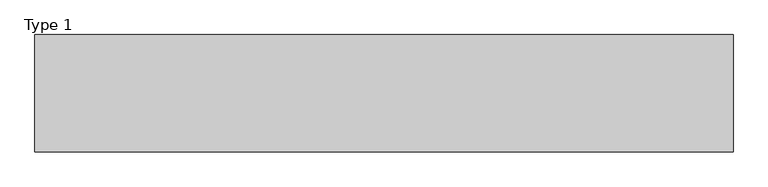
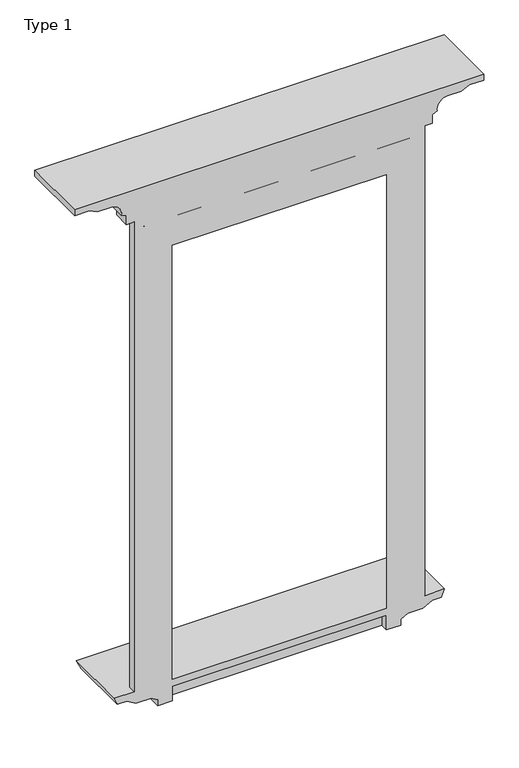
"""IFC4 building model written with IfcOpenShell, lengths in millimetres: proxy geometry, Family1.rfa122231 : Type 1."""

from ifc_helpers import new_model, si_unit, frame, origin, place, context, project, spatial, polyline, circle_curve, ellipse_curve, source, transform, mapped, element, save
from ifc_brep_helpers import plane_surface, revolved_surface, advanced_brep


def type_1_216547c5(model_context):
    return source(origin(), model_context, "Body", "AdvancedBrep", [
        advanced_brep(
        [(-1215.0, 200.0, 4370.0), (-1215.0, 200.0, 4330.0), (-1120.0, 200.0, 4330.0), (-1065.6215328, 200.0, 4304.6429043), (-975.6215328, 200.0, 4304.6429043), (-908.1288338, 200.0, 4224.2082378), (-876.4080612, 200.0, 4209.4165986), (-876.4080612, 200.0, 4150.0), (-825.0, 200.0, 4150.0), (-825.0, 200.0, 900.0), (-955.0, 200.0, 900.0), (-935.3873986, 200.0, 850.0), (-875.0, 200.0, 850.0), (-814.3782217, 200.0, 815.0), (-714.3782217, 200.0, 815.0), (-671.0769515, 200.0, 790.0), (-671.0769515, 200.0, 750.0), (-575.0, 200.0, 750.0), (-575.0, 200.0, 850.0), (825.0, 200.0, 850.0), (825.0, 200.0, 750.0), (921.0769515, 200.0, 750.0), (921.0769515, 200.0, 790.0), (964.3782217, 200.0, 815.0), (1064.3782217, 200.0, 815.0), (1125.0, 200.0, 850.0), (1185.3873986, 200.0, 850.0), (1205.0, 200.0, 900.0), (1075.0, 200.0, 900.0), (1075.0, 200.0, 4150.0), (1125.7862829, 200.0, 4150.0), (1125.7862829, 200.0, 4209.4165986), (1157.5070555, 200.0, 4224.2082378), (1224.9997545, 200.0, 4304.6429043), (1314.9997545, 200.0, 4304.6429043), (1369.3782217, 200.0, 4330.0), (1464.3782217, 200.0, 4330.0), (1464.3782217, 200.0, 4370.0), (825.0, 200.0, 3900.0), (825.0, 200.0, 900.0), (-575.0, 200.0, 900.0), (-575.0, 200.0, 3900.0), (1464.3782217, 650.0, 4370.0), (-1215.0, 650.0, 4370.0), (-1215.0, 650.0, 4330.0), (1464.3782217, 650.0, 4330.0), (1369.3782217, 555.0, 4330.0), (-1120.0, 555.0, 4330.0), (-1065.6215328, 500.6215328, 4304.6429043), (1314.9997545, 500.6215328, 4304.6429043), (1224.9997545, 410.6215328, 4304.6429043), (-975.6215328, 410.6215328, 4304.6429043), (-908.1288338, 343.1288338, 4224.2082378), (-876.4080612, 311.4080612, 4209.4165986), (-876.4080612, 311.4080612, 4150.0), (1125.7862829, 311.4080612, 4150.0), (1075.0, 250.7652476, 4150.0), (-825.0, 250.7652476, 4150.0), (1157.5070555, 343.1288338, 4224.2082378), (1125.7862829, 311.4080612, 4209.4165986), (-800.2409318, 250.0, 4118.6790562), (1050.2409318, 250.0, 4118.6790562), (1043.6790562, 231.9713952, 4118.6790562), (-793.6790562, 231.9713952, 4118.6790562), (-800.2409318, 250.0, 4125.2409318), (1050.2409318, 250.0, 4125.2409318), (847.4975663, 226.8115555, 3922.4975663), (847.4975663, 226.8115555, 900.0), (-597.4975663, 226.8115555, 3922.4975663), (-597.4975663, 226.8115555, 900.0), (-637.4975663, 226.8115555, 900.0), (-637.4975663, 226.8115555, 3962.4975663), (887.4975663, 226.8115555, 3962.4975663), (887.4975663, 226.8115555, 900.0), (915.7237184, 228.4289525, 3990.7237184), (915.7237184, 228.4289525, 900.0), (-665.7237184, 228.4289525, 3990.7237184), (-665.7237184, 228.4289525, 900.0), (-695.7237184, 228.4289525, 900.0), (-695.7237184, 228.4289525, 4020.7237184), (945.7237184, 228.4289525, 4020.7237184), (945.7237184, 228.4289525, 900.0), (976.2275363, 250.0, 4051.2275363), (976.2275363, 250.0, 900.0), (-726.2275363, 250.0, 4051.2275363), (-726.2275363, 250.0, 900.0), (-752.6137347, 250.0, 900.0), (-752.6137347, 250.0, 4077.6137347), (1002.6137347, 250.0, 4077.6137347), (1002.6137347, 250.0, 900.0), (1003.6790562, 231.9713952, 4078.6790562), (1003.6790562, 231.9713952, 900.0), (-753.6790562, 231.9713952, 4078.6790562), (-753.6790562, 231.9713952, 900.0), (-793.6790562, 231.9713952, 900.0), (1043.6790562, 231.9713952, 900.0), (1050.5194591, 250.7652476, 4125.5194591), (1050.5194591, 250.7652476, 900.0), (-800.5194591, 250.7652476, 4125.5194591), (-800.5194591, 250.7652476, 900.0), (-825.0, 250.7652476, 900.0), (1075.0, 250.7652476, 900.0), (-955.0, 630.0, 900.0), (-935.3873986, 610.3873986, 850.0), (1185.3873986, 610.3873986, 850.0), (1125.0, 550.0, 850.0), (-875.0, 550.0, 850.0), (-814.3782217, 489.3782217, 815.0), (1064.3782217, 489.3782217, 815.0), (964.3782217, 389.3782217, 815.0), (-714.3782217, 389.3782217, 815.0), (-671.0769515, 346.0769515, 790.0), (-671.0769515, 346.0769515, 750.0), (921.0769515, 346.0769515, 750.0), (825.0, 250.0, 750.0), (-575.0, 250.0, 750.0), (-575.0, 250.0, 850.0), (1205.0, 630.0, 900.0), (921.0769515, 346.0769515, 790.0), (825.0, 250.0, 850.0)],
        [
            (0, 1),
            (1, 2),
            (2, 3),
            (3, 4),
            (4, 5, circle_curve(frame((-975.6215328, 200.0, 4236.1090216), z_axis=(0.0, 1.0, 0.0), x_axis=(-1.0, 0.0, 0.0)), 68.5338827)),
            (5, 6),
            (6, 7),
            (7, 8),
            (8, 9),
            (9, 10),
            (10, 11),
            (11, 12),
            (12, 13),
            (13, 14),
            (14, 15),
            (15, 16),
            (16, 17),
            (17, 18),
            (18, 19),
            (19, 20),
            (20, 21),
            (21, 22),
            (22, 23),
            (23, 24),
            (24, 25),
            (25, 26),
            (26, 27),
            (27, 28),
            (28, 29),
            (29, 30),
            (30, 31),
            (31, 32),
            (32, 33, circle_curve(frame((1224.9997545, 200.0, 4236.1090216), z_axis=(0.0, 1.0, 0.0), x_axis=(1.0, 0.0, 0.0)), 68.5338827)),
            (33, 34),
            (34, 35),
            (35, 36),
            (36, 37),
            (37, 0),
            (38, 39),
            (39, 40),
            (40, 41),
            (41, 38),
            (37, 42),
            (42, 43),
            (43, 0),
            (43, 44),
            (44, 1),
            (44, 45),
            (45, 36),
            (35, 46),
            (46, 47),
            (47, 2),
            (47, 48),
            (48, 3),
            (48, 49),
            (49, 34),
            (33, 50),
            (50, 51),
            (51, 4),
            (51, 52, ellipse_curve(frame((-975.6215328, 410.6215328, 4236.1090216), z_axis=(0.7071067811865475, 0.7071067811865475, 0.0), x_axis=(-0.7071067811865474, 0.7071067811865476, 0.0)), 96.9215464, 68.5338827)),
            (52, 5),
            (52, 53),
            (53, 6),
            (53, 54),
            (54, 7),
            (54, 55),
            (55, 30),
            (29, 56),
            (56, 57),
            (57, 8),
            (42, 45),
            (46, 49),
            (50, 58, ellipse_curve(frame((1224.9997545, 410.6215328, 4236.1090216), z_axis=(0.7071067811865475, -0.7071067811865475, 0.0), x_axis=(0.7071067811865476, 0.7071067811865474, 0.0)), 96.9215464, 68.5338827)),
            (58, 52),
            (58, 59),
            (59, 53),
            (59, 55),
            (32, 58),
            (31, 59),
            (60, 61),
            (61, 62),
            (62, 63),
            (63, 60),
            (60, 64),
            (64, 65),
            (65, 61),
            (38, 66),
            (66, 67),
            (67, 39),
            (66, 68),
            (68, 69),
            (69, 70),
            (70, 71),
            (71, 72),
            (72, 73),
            (73, 67),
            (72, 74, ellipse_curve(frame((901.2586589, 233.7629252, 3976.2586589), z_axis=(-0.7071067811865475, 0.0, 0.7071067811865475), x_axis=(0.7071067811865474, 0.0, 0.7071067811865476)), 21.8031745, 15.4171726)),
            (74, 75),
            (75, 73, circle_curve(frame((901.2586589, 233.7629252, 900.0), z_axis=(0.0, 0.0, -1.0), x_axis=(1.0, 0.0, 0.0)), 15.4171726)),
            (74, 76),
            (76, 77),
            (77, 78),
            (78, 79),
            (79, 80),
            (80, 81),
            (81, 75),
            (80, 82),
            (82, 83),
            (83, 81),
            (82, 84),
            (84, 85),
            (85, 86),
            (86, 87),
            (87, 88),
            (88, 89),
            (89, 83),
            (88, 90, ellipse_curve(frame((1003.6104256, 241.0131174, 4078.6104256), z_axis=(-0.7071067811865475, 0.0, 0.7071067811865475), x_axis=(0.7071067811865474, 0.0, 0.7071067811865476)), 12.7872946, 9.0419827)),
            (90, 91),
            (91, 89, circle_curve(frame((1003.6104256, 241.0131174, 900.0), z_axis=(0.0, 0.0, -1.0), x_axis=(1.0, 0.0, 0.0)), 9.0419827)),
            (90, 92),
            (92, 93),
            (93, 94),
            (94, 63),
            (62, 95),
            (95, 91),
            (65, 96),
            (96, 97),
            (97, 95),
            (96, 98),
            (98, 99),
            (99, 100),
            (100, 57),
            (56, 101),
            (101, 97),
            (28, 101),
            (41, 68),
            (71, 76, ellipse_curve(frame((-651.2586589, 233.7629252, 3976.2586589), z_axis=(-0.7071067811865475, 0.0, -0.7071067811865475), x_axis=(-0.7071067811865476, 0.0, 0.7071067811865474)), 21.8031745, 15.4171726)),
            (79, 84),
            (87, 92, ellipse_curve(frame((-753.6104256, 241.0131174, 4078.6104256), z_axis=(-0.7071067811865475, 0.0, -0.7071067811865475), x_axis=(-0.7071067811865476, 0.0, 0.7071067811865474)), 12.7872946, 9.0419827)),
            (64, 98),
            (40, 69),
            (70, 77, circle_curve(frame((-651.2586589, 233.7629252, 900.0), z_axis=(0.0, 0.0, -1.0), x_axis=(-1.0, 0.0, 0.0)), 15.4171726)),
            (78, 85),
            (86, 93, circle_curve(frame((-753.6104256, 241.0131174, 900.0), z_axis=(0.0, 0.0, -1.0), x_axis=(-1.0, 0.0, 0.0)), 9.0419827)),
            (94, 99),
            (100, 9),
            (10, 102),
            (102, 103),
            (103, 11),
            (103, 104),
            (104, 26),
            (25, 105),
            (105, 106),
            (106, 12),
            (106, 107),
            (107, 13),
            (107, 108),
            (108, 24),
            (23, 109),
            (109, 110),
            (110, 14),
            (110, 111),
            (111, 15),
            (111, 112),
            (112, 16),
            (112, 113),
            (113, 21),
            (20, 114),
            (114, 115),
            (115, 17),
            (115, 116),
            (116, 18),
            (27, 117),
            (117, 102),
            (117, 104),
            (105, 108),
            (109, 118),
            (118, 111),
            (118, 113),
            (114, 119),
            (119, 116),
            (22, 118),
            (19, 119),
        ],
        [
            plane_surface(frame((-815.0, 200.0, 4150.0), z_axis=(0.0, -1.0, 0.0), x_axis=(0.0, 0.0, 1.0))),
            plane_surface(frame((-815.0, 200.0, 4370.0), z_axis=(0.0, 0.0, 1.0), x_axis=(0.0, 1.0, 0.0))),
            plane_surface(frame((-1215.0, 200.0, 4370.0), z_axis=(-1.0, 0.0, 0.0), x_axis=(0.0, 1.0, 0.0))),
            plane_surface(frame((-1215.0, 200.0, 4330.0), z_axis=(0.0, 0.0, -1.0), x_axis=(0.0, 1.0, 0.0))),
            plane_surface(frame((-1120.0, 200.0, 4330.0), z_axis=(-0.42261826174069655, 0.0, -0.9063077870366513), x_axis=(0.0, 1.0, 0.0))),
            plane_surface(frame((-1065.6215328, 200.0, 4304.6429043), z_axis=(0.0, 0.0, -1.0), x_axis=(0.0, 1.0, 0.0))),
            revolved_surface(polyline([(-1044.1554155, 479.15541550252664, 4236.1090216), (-1044.1554155, 200.0, 4236.1090216)]), (-975.6215328, 200.0, 4236.1090216), (0.0, 1.0, 0.0)),
            plane_surface(frame((-908.1288338, 200.0, 4224.2082378), z_axis=(-0.4226182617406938, 0.0, -0.9063077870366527), x_axis=(0.0, 1.0, 0.0))),
            plane_surface(frame((-876.4080612, 200.0, 4209.4165986), z_axis=(-1.0, 0.0, 0.0), x_axis=(0.0, 1.0, 0.0))),
            plane_surface(frame((-876.4080612, 200.0, 4150.0), z_axis=(0.0, 0.0, -1.0), x_axis=(0.0, 1.0, 0.0))),
            plane_surface(frame((-1215.0, 650.0, 4370.0), z_axis=(0.0, 1.0, 0.0), x_axis=(1.0, 0.0, 0.0))),
            plane_surface(frame((-1120.0, 555.0, 4330.0), z_axis=(0.0, 0.42261826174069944, -0.9063077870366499), x_axis=(1.0, 0.0, 0.0))),
            revolved_surface(polyline([(1293.5336372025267, 479.1554155, 4236.1090216), (-1044.1554155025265, 479.1554155, 4236.1090216)]), (-815.0, 410.6215328, 4236.1090216), (1.0, 0.0, 0.0)),
            plane_surface(frame((-908.1288338, 343.1288338, 4224.2082378), z_axis=(0.0, 0.42261826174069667, -0.9063077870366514), x_axis=(1.0, 0.0, 0.0))),
            plane_surface(frame((-876.4080612, 311.4080612, 4209.4165986), z_axis=(0.0, 1.0, 0.0), x_axis=(1.0, 0.0, 0.0))),
            plane_surface(frame((1464.3782217, 650.0, 4370.0), z_axis=(1.0, 0.0, 0.0), x_axis=(0.0, -1.0, 0.0))),
            plane_surface(frame((1369.3782217, 555.0, 4330.0), z_axis=(0.42261826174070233, 0.0, -0.9063077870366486), x_axis=(0.0, -1.0, 0.0))),
            revolved_surface(polyline([(1293.5336372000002, 200.0, 4236.1090216), (1293.5336372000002, 479.1554155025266, 4236.1090216)]), (1224.9997545, 250.0, 4236.1090216), (0.0, -1.0, 0.0)),
            plane_surface(frame((1157.5070555, 343.1288338, 4224.2082378), z_axis=(0.42261826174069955, 0.0, -0.90630778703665), x_axis=(0.0, -1.0, 0.0))),
            plane_surface(frame((1125.7862829, 311.4080612, 4209.4165986), z_axis=(1.0, 0.0, 0.0), x_axis=(0.0, -1.0, 0.0))),
            plane_surface(frame((1064.3782217, 250.0, 4118.6790562), z_axis=(0.0, 0.0, -1.0), x_axis=(1.0, 0.0, 0.0))),
            plane_surface(frame((1064.3782217, 250.0, 4370.0), z_axis=(0.0, 1.0, 0.0), x_axis=(0.0, 0.0, -1.0))),
            plane_surface(frame((825.0, 200.0, 900.0), z_axis=(-0.7660444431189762, 0.6427876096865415, 0.0), x_axis=(0.0, 0.0, 1.0))),
            plane_surface(frame((847.4975663, 226.8115555, 900.0), z_axis=(0.0, 1.0, 0.0), x_axis=(0.0, 0.0, 1.0))),
            revolved_surface(polyline([(916.6758315, 233.7629252, 3991.6758314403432), (916.6758315, 233.7629252, 900.0)]), (901.2586589, 233.7629252, 900.0), (0.0, 0.0, 1.0)),
            plane_surface(frame((915.7237184, 228.4289525, 900.0), z_axis=(0.0, 1.0, 0.0), x_axis=(0.0, 0.0, 1.0))),
            plane_surface(frame((945.7237184, 228.4289525, 900.0), z_axis=(-0.5773786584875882, 0.8164765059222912, 0.0), x_axis=(0.0, 0.0, 1.0))),
            plane_surface(frame((976.2275363, 250.0, 900.0), z_axis=(0.0, 1.0, 0.0), x_axis=(0.0, 0.0, 1.0))),
            revolved_surface(polyline([(1012.6524082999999, 241.0131174, 4087.65240832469), (1012.6524082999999, 241.0131174, 900.0)]), (1003.6104256, 241.0131174, 900.0), (0.0, 0.0, 1.0)),
            plane_surface(frame((1003.6790562, 231.9713952, 900.0), z_axis=(0.0, 1.0, 0.0), x_axis=(0.0, 0.0, 1.0))),
            plane_surface(frame((1043.6790562, 231.9713952, 900.0), z_axis=(-0.9396926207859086, 0.34202014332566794, 0.0), x_axis=(0.0, 0.0, 1.0))),
            plane_surface(frame((1050.5194591, 250.7652476, 900.0), z_axis=(0.0, 1.0, 0.0), x_axis=(0.0, 0.0, 1.0))),
            plane_surface(frame((1075.0, 250.7652476, 900.0), z_axis=(1.0, 0.0, 0.0), x_axis=(0.0, 0.0, 1.0))),
            plane_surface(frame((825.0, 200.0, 3900.0), z_axis=(0.0, 0.6427876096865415, -0.7660444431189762), x_axis=(-1.0, 0.0, 0.0))),
            revolved_surface(polyline([(-666.6758314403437, 233.7629252, 3991.6758314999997), (916.6758314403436, 233.7629252, 3991.6758314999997)]), (825.0, 233.7629252, 3976.2586589), (-1.0, 0.0, 0.0)),
            plane_surface(frame((945.7237184, 228.4289525, 4020.7237184), z_axis=(0.0, 0.8164765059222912, -0.5773786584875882), x_axis=(-1.0, 0.0, 0.0))),
            revolved_surface(polyline([(-762.65240832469, 241.0131174, 4087.6524083), (1012.6524083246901, 241.0131174, 4087.6524083)]), (825.0, 241.0131174, 4078.6104256), (-1.0, 0.0, 0.0)),
            plane_surface(frame((1043.6790562, 231.9713952, 4118.6790562), z_axis=(0.0, 0.34202014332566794, -0.9396926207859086), x_axis=(-1.0, 0.0, 0.0))),
            plane_surface(frame((-575.0, 200.0, 3900.0), z_axis=(0.7660444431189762, 0.6427876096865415, 0.0), x_axis=(0.0, 0.0, -1.0))),
            revolved_surface(polyline([(-666.6758315, 233.7629252, 900.0), (-666.6758315, 233.7629252, 3991.6758314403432)]), (-651.2586589, 233.7629252, 3900.0), (0.0, 0.0, -1.0)),
            plane_surface(frame((-695.7237184, 228.4289525, 4020.7237184), z_axis=(0.5773786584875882, 0.8164765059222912, 0.0), x_axis=(0.0, 0.0, -1.0))),
            revolved_surface(polyline([(-762.6524082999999, 241.0131174, 900.0), (-762.6524082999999, 241.0131174, 4087.65240832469)]), (-753.6104256, 241.0131174, 3900.0), (0.0, 0.0, -1.0)),
            plane_surface(frame((-793.6790562, 231.9713952, 4118.6790562), z_axis=(0.9396926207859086, 0.34202014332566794, 0.0), x_axis=(0.0, 0.0, -1.0))),
            plane_surface(frame((-825.0, 250.7652476, 4150.0), z_axis=(-1.0, 0.0, 0.0), x_axis=(0.0, 0.0, -1.0))),
            plane_surface(frame((-955.0, 200.0, 900.0), z_axis=(-0.9309430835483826, 0.0, -0.36516431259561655), x_axis=(0.0, 1.0, 0.0))),
            plane_surface(frame((-935.3873986, 200.0, 850.0), z_axis=(0.0, 0.0, -1.0), x_axis=(0.0, 1.0, 0.0))),
            plane_surface(frame((-875.0, 200.0, 850.0), z_axis=(-0.5000000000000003, 0.0, -0.8660254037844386), x_axis=(0.0, 1.0, 0.0))),
            plane_surface(frame((-814.3782217, 200.0, 815.0), z_axis=(0.0, 0.0, -1.0), x_axis=(0.0, 1.0, 0.0))),
            plane_surface(frame((-714.3782217, 200.0, 815.0), z_axis=(-0.49999999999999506, 0.0, -0.8660254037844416), x_axis=(0.0, 1.0, 0.0))),
            plane_surface(frame((-671.0769515, 200.0, 790.0), z_axis=(-1.0, 0.0, 0.0), x_axis=(0.0, 1.0, 0.0))),
            plane_surface(frame((-671.0769515, 200.0, 750.0), z_axis=(0.0, 0.0, -1.0), x_axis=(0.0, 1.0, 0.0))),
            plane_surface(frame((-575.0, 200.0, 750.0), z_axis=(1.0, 0.0, 0.0), x_axis=(0.0, 1.0, 0.0))),
            plane_surface(frame((-575.0, 200.0, 900.0), z_axis=(0.0, 0.0, 1.0), x_axis=(0.0, 1.0, 0.0))),
            plane_surface(frame((-955.0, 630.0, 900.0), z_axis=(0.0, 0.9309430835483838, -0.3651643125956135), x_axis=(1.0, 0.0, 0.0))),
            plane_surface(frame((-875.0, 550.0, 850.0), z_axis=(0.0, 0.5000000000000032, -0.8660254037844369), x_axis=(1.0, 0.0, 0.0))),
            plane_surface(frame((-714.3782217, 389.3782217, 815.0), z_axis=(0.0, 0.4999999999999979, -0.8660254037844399), x_axis=(1.0, 0.0, 0.0))),
            plane_surface(frame((-671.0769515, 346.0769515, 790.0), z_axis=(0.0, 1.0, 0.0), x_axis=(1.0, 0.0, 0.0))),
            plane_surface(frame((-575.0, 250.0, 750.0), z_axis=(0.0, -1.0, 0.0), x_axis=(1.0, 0.0, 0.0))),
            plane_surface(frame((1205.0, 630.0, 900.0), z_axis=(0.9309430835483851, 0.0, -0.36516431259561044), x_axis=(0.0, -1.0, 0.0))),
            plane_surface(frame((1125.0, 550.0, 850.0), z_axis=(0.5000000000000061, 0.0, -0.8660254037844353), x_axis=(0.0, -1.0, 0.0))),
            plane_surface(frame((964.3782217, 389.3782217, 815.0), z_axis=(0.5000000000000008, 0.0, -0.8660254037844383), x_axis=(0.0, -1.0, 0.0))),
            plane_surface(frame((921.0769515, 346.0769515, 790.0), z_axis=(1.0, 0.0, 0.0), x_axis=(0.0, -1.0, 0.0))),
            plane_surface(frame((825.0, 250.0, 750.0), z_axis=(-1.0, 0.0, 0.0), x_axis=(0.0, -1.0, 0.0))),
            plane_surface(frame((825.0, 250.0, 850.0), z_axis=(0.0, 0.0, -1.0), x_axis=(0.0, -1.0, 0.0))),
        ],
        [
            (0, [[1, 2, 3, 4, 5, 6, 7, 8, 9, 10, 11, 12, 13, 14, 15, 16, 17, 18, 19, 20, 21, 22, 23, 24, 25, 26, 27, 28, 29, 30, 31, 32, 33, 34, 35, 36, 37, 38], [39, 40, 41, 42]]),
            (1, [[43, 44, 45, -38]]),
            (2, [[-1, -45, 46, 47]]),
            (3, [[-2, -47, 48, 49, -36, 50, 51, 52]]),
            (4, [[-3, -52, 53, 54]]),
            (5, [[-4, -54, 55, 56, -34, 57, 58, 59]]),
            (6, [[-5, -59, 60, 61]]),
            (7, [[-6, -61, 62, 63]]),
            (8, [[-7, -63, 64, 65]]),
            (9, [[-65, 66, 67, -30, 68, 69, 70, -8]]),
            (10, [[-44, 71, -48, -46]]),
            (11, [[-51, 72, -55, -53]]),
            (12, [[-58, 73, 74, -60]]),
            (13, [[-62, -74, 75, 76]]),
            (14, [[-64, -76, 77, -66]]),
            (15, [[-43, -37, -49, -71]]),
            (16, [[-50, -35, -56, -72]]),
            (17, [[-57, -33, 78, -73]]),
            (18, [[-75, -78, -32, 79]]),
            (19, [[-67, -77, -79, -31]]),
            (20, [[80, 81, 82, 83]]),
            (21, [[-80, 84, 85, 86]]),
            (22, [[-39, 87, 88, 89]]),
            (23, [[-88, 90, 91, 92, 93, 94, 95, 96]]),
            (24, [[-95, 97, 98, 99]]),
            (25, [[-98, 100, 101, 102, 103, 104, 105, 106]]),
            (26, [[-105, 107, 108, 109]]),
            (27, [[-108, 110, 111, 112, 113, 114, 115, 116]]),
            (28, [[-115, 117, 118, 119]]),
            (29, [[-118, 120, 121, 122, 123, -82, 124, 125]]),
            (30, [[-124, -81, -86, 126, 127, 128]]),
            (31, [[-127, 129, 130, 131, 132, -69, 133, 134]]),
            (32, [[-29, 135, -133, -68]]),
            (33, [[-42, 136, -90, -87]]),
            (34, [[-94, 137, -100, -97]]),
            (35, [[-104, 138, -110, -107]]),
            (36, [[-114, 139, -120, -117]]),
            (37, [[-129, -126, -85, 140]]),
            (38, [[-41, 141, -91, -136]]),
            (39, [[-93, 142, -101, -137]]),
            (40, [[-103, 143, -111, -138]]),
            (41, [[-113, 144, -121, -139]]),
            (42, [[-123, 145, -130, -140, -84, -83]]),
            (43, [[-9, -70, -132, 146]]),
            (44, [[-11, 147, 148, 149]]),
            (45, [[-12, -149, 150, 151, -26, 152, 153, 154]]),
            (46, [[-13, -154, 155, 156]]),
            (47, [[-14, -156, 157, 158, -24, 159, 160, 161]]),
            (48, [[-15, -161, 162, 163]]),
            (49, [[-16, -163, 164, 165]]),
            (50, [[-17, -165, 166, 167, -21, 168, 169, 170]]),
            (51, [[-170, 171, 172, -18]]),
            (52, [[-147, -10, -146, -131, -145, -122, -144, -112, -143, -102, -142, -92, -141, -40, -89, -96, -99, -106, -109, -116, -119, -125, -128, -134, -135, -28, 173, 174]]),
            (53, [[-148, -174, 175, -150]]),
            (54, [[-153, 176, -157, -155]]),
            (55, [[-160, 177, 178, -162]]),
            (56, [[-164, -178, 179, -166]]),
            (57, [[-169, 180, 181, -171]]),
            (58, [[-151, -175, -173, -27]]),
            (59, [[-152, -25, -158, -176]]),
            (60, [[-159, -23, 182, -177]]),
            (61, [[-167, -179, -182, -22]]),
            (62, [[-168, -20, 183, -180]]),
            (63, [[-19, -172, -181, -183]]),
        ],
    ),
    ])


if __name__ == "__main__":
    model = new_model("IFC4")
    model_context = context("Model", 3, world=origin())
    ifc_project = project(units=[si_unit("LENGTHUNIT", "METRE", prefix="MILLI")], contexts=[model_context])
    site = spatial("IfcSite", under=ifc_project)
    building = spatial("IfcBuilding", under=site)
    placement = place(None, origin())
    type_1_shape = type_1_216547c5(model_context)
    element("IfcBuildingElementProxy", 1, Name="Family1.rfa122231 : Type 1", ObjectType="Family1.rfa122231 : Type 1", at=placement, inside=building, context=model_context, shape_type="MappedRepresentation", body=[
        mapped(type_1_shape, transform((0.0, 0.0, 0.0), x_axis=(1.0, 0.0, 0.0), y_axis=(0.0, 1.0, 0.0), z_axis=(0.0, 0.0, 1.0))),
    ])
    save(model, "model.ifc")
